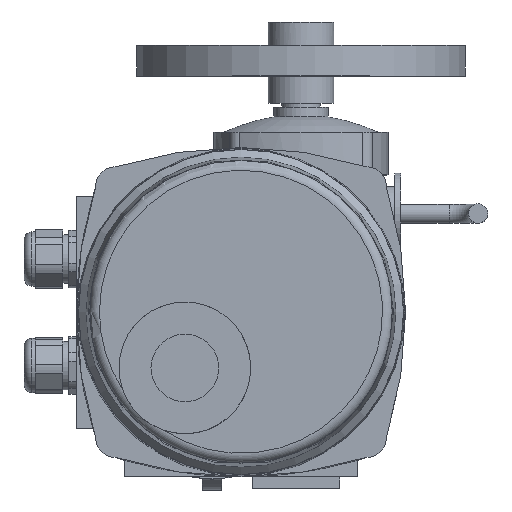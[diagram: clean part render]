
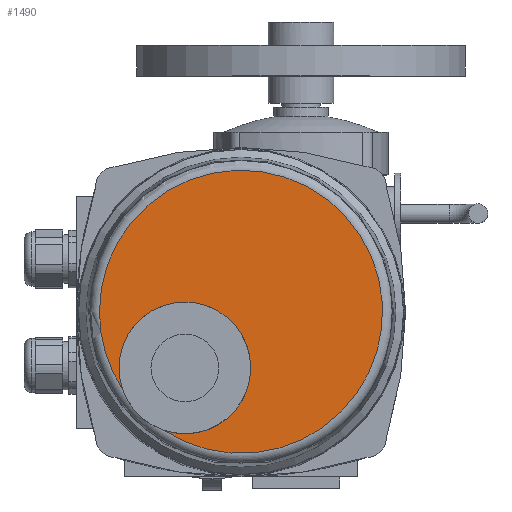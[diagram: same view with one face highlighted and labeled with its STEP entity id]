
A CAD part, top view. The second image highlights one B-rep face of the part: STEP entity #1490.
In plain terms, the highlighted planar face has unit normal (0, 0, 1).
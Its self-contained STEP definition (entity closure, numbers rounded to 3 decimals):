
#1490=ADVANCED_FACE('',(#8444),#8446,.T.);
#8444=FACE_BOUND('',#8445,.T.);
#8445=EDGE_LOOP('',(#13768,#13769,#13770,#13771));
#8446=PLANE('',#8447);
#8447=AXIS2_PLACEMENT_3D('',#8448,#8449,#8450);
#8448=CARTESIAN_POINT('',(15.,35.,385.));
#8449=DIRECTION('',(0.,0.,1.));
#8450=DIRECTION('',(-1.,0.,0.));
#13768=ORIENTED_EDGE('',*,*,#17695,.F.);
#13769=ORIENTED_EDGE('',*,*,#17696,.F.);
#13770=ORIENTED_EDGE('',*,*,#17682,.F.);
#13771=ORIENTED_EDGE('',*,*,#17681,.F.);
#17681=EDGE_CURVE('',#20103,#20106,#20107,.T.);
#17682=EDGE_CURVE('',#20106,#20104,#20108,.T.);
#17695=EDGE_CURVE('',#20129,#20103,#20130,.T.);
#17696=EDGE_CURVE('',#20104,#20129,#20131,.T.);
#20103=VERTEX_POINT('',#24913);
#20104=VERTEX_POINT('',#24914);
#20106=VERTEX_POINT('',#24943);
#20107=CIRCLE('',#24944,73.139);
#20108=CIRCLE('',#24948,73.139);
#20129=VERTEX_POINT('',#25001);
#20130=CIRCLE('',#25002,34.);
#20131=CIRCLE('',#25006,34.);
#24913=CARTESIAN_POINT('',(-46.08,-5.231,385.));
#24914=CARTESIAN_POINT('',(-25.231,-26.08,385.));
#24943=CARTESIAN_POINT('',(-58.139,35.,385.));
#24944=AXIS2_PLACEMENT_3D('',#24945,#24946,#24947);
#24945=CARTESIAN_POINT('',(15.,35.,385.));
#24946=DIRECTION('',(0.,0.,-1.));
#24947=DIRECTION('',(-0.835,-0.55,0.));
#24948=AXIS2_PLACEMENT_3D('',#24949,#24950,#24951);
#24949=CARTESIAN_POINT('',(15.,35.,385.));
#24950=DIRECTION('',(0.,0.,-1.));
#24951=DIRECTION('',(-1.,0.,0.));
#25001=CARTESIAN_POINT('',(-13.991,40.009,385.));
#25002=AXIS2_PLACEMENT_3D('',#25003,#25004,#25005);
#25003=CARTESIAN_POINT('',(-13.991,6.009,385.));
#25004=DIRECTION('',(0.,0.,1.));
#25005=DIRECTION('',(0.,1.,0.));
#25006=AXIS2_PLACEMENT_3D('',#25007,#25008,#25009);
#25007=CARTESIAN_POINT('',(-13.991,6.009,385.));
#25008=DIRECTION('',(0.,0.,1.));
#25009=DIRECTION('',(-0.331,-0.944,0.));
